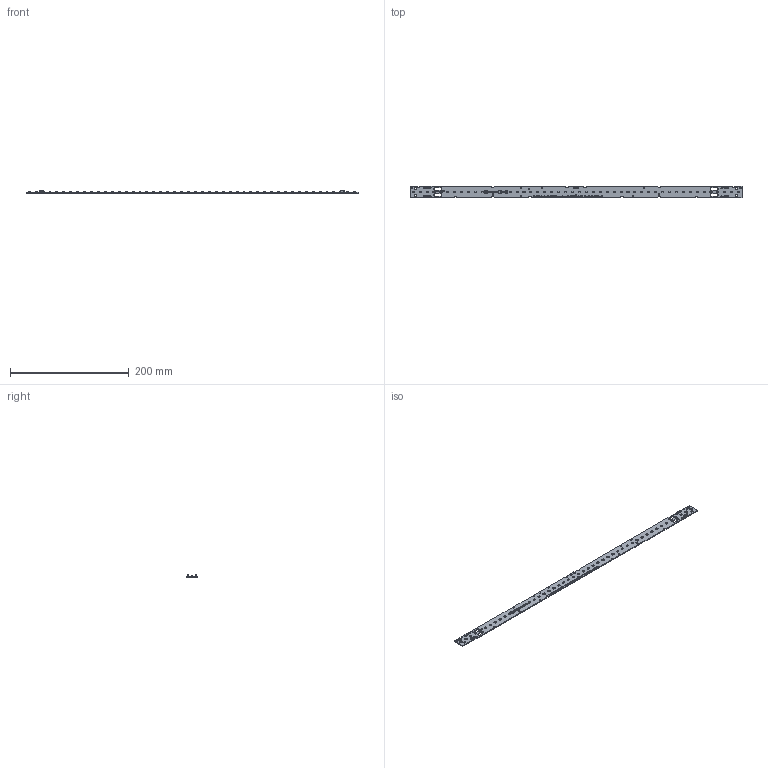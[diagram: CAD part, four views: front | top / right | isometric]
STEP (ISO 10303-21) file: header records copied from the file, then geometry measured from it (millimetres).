
FILE_DESCRIPTION(('Creo Elements/Direct Modeling STEP Export'),'2;1');
FILE_NAME('3D-Model__MLC SC W2_560 S_48_yzz_yzz G1.stp','2026-07-07T14:42:29',(''),(''),'PTC Creo Elements/Direct Modeling STEP processor for AP214 (Solid Model)','PTC Creo Elements/Direct Modeling 19.0E 27-Jun-2016 (C) Parametric Technology GmbH','');
FILE_SCHEMA(('AUTOMOTIVE_DESIGN { 1 0 10303 214 1 1 1 1 }'));
Length unit declared in the file: millimetre
Products named in the file (320): p1; Print.76; Print.75; Print.77; Print.74; Print.84; Print.83; Print.80; Print.78; Print.82; Print.81; Print.79; Print.100; Print.98; Print.113; Print.99; Print.105; Print.117; Print.115; Print.107; Print.114; Print.109; Print.103; Print.112; Print.111; Print.104; Print.106; Print.96; Print.108; Print.97; Print.118; Print.116; Print.101; Print.102; Print.110; Print.22; Print.21; Print.27; Print.30; Print.28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
Assembly tree (283 placements, depth 5):
  p1
  Print_Assembly
    Print.49
    Print.42
    Print.45
    Print.51
    Print.47
    Print.48
    Print.46
    Print.41
    Print.44
    Print.50
    Print.43
    Print.92
    Print.87
    Print.89
    Print.94
    Print.85
    Print.93
    Print.91
    Print.86
    Print.88
    Print.95
    Print.90
    Print.36
    Print.34
    Print.37
    Print.32
    Print.33
    Print.35
    Print.39
    Print.40
    Print.38
    Print.19
    Print.6
    Print.15
    Print.20
    Print.7
    Print.10
    Print.9
    Print.8
    Print.4
    Print.11
    Print
    Print.1
    Print.18
    Print.16
    Print.17
    Print.13
    Print.5
    Print.2
    Print.14
    Print.3
    Print.12
    Print.59
    Print.55
    Print.58
    Print.54
    Print.53
    Print.62
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Bounding box: 559 x 20 x 4.3 mm (x, y, z)
Volume: 17258.5 mm3; surface area: 26327.6 mm2
Topology: 139 solids, 379 shells, 10405 faces, 28101 edges, 18290 vertices
Faces by surface type: plane 8207, cylinder 2198
Entity records: 292144 total; most frequent: ORIENTED_EDGE 40330, CARTESIAN_POINT 40134, DIRECTION 37585, EDGE_CURVE 20045, VECTOR 16403, LINE 16403, VERTEX_POINT 13082, AXIS2_PLACEMENT_3D 10591
